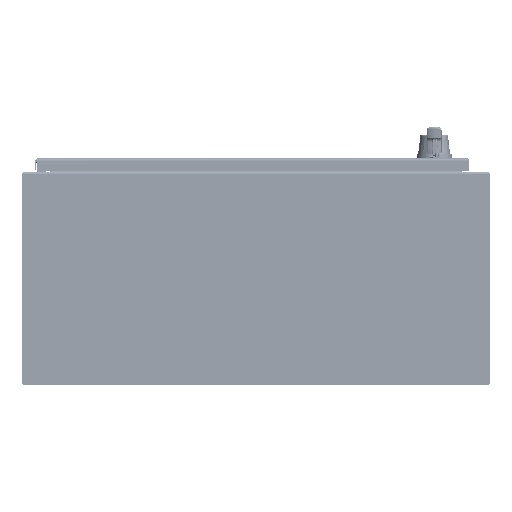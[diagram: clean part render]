
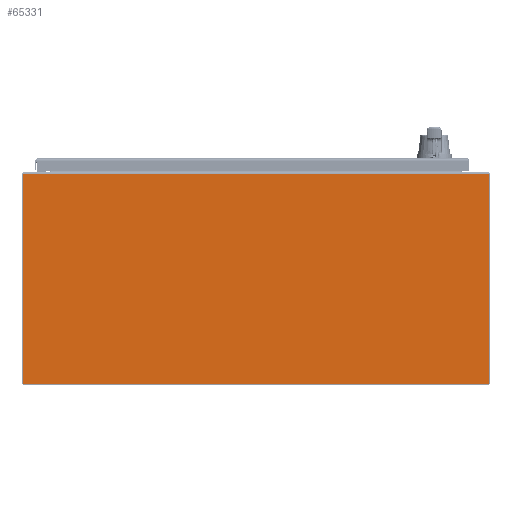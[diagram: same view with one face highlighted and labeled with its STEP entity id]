
A CAD part, front view. The second image highlights one B-rep face of the part: STEP entity #65331.
In plain terms, the highlighted planar face has unit normal (0, -1, 0).
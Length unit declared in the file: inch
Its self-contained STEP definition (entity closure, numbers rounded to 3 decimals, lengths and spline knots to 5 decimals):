
#897 = VERTEX_POINT ( 'NONE', #95481 ) ;
#1611 = ORIENTED_EDGE ( 'NONE', *, *, #28920, .F. ) ;
#2004 = DIRECTION ( 'NONE',  ( -1., 0., 0. ) ) ;
#10940 = VERTEX_POINT ( 'NONE', #115342 ) ;
#21148 = DIRECTION ( 'NONE',  ( 0., 0., -1. ) ) ;
#28920 = EDGE_CURVE ( 'NONE', #897, #10940, #127999, .T. ) ;
#43993 = CARTESIAN_POINT ( 'NONE',  ( -19.76, 0., 8.8 ) ) ;
#52885 = EDGE_LOOP ( 'NONE', ( #1611, #112942, #128052, #147893 ) ) ;
#54267 = VERTEX_POINT ( 'NONE', #43993 ) ;
#54858 = CARTESIAN_POINT ( 'NONE',  ( -19.76, 0., 9.005 ) ) ;
#63232 = LINE ( 'NONE', #54858, #102573 ) ;
#65331 = ADVANCED_FACE ( 'NONE', ( #109284 ), #175549, .T. ) ;
#65649 = EDGE_CURVE ( 'NONE', #67413, #54267, #63232, .T. ) ;
#67413 = VERTEX_POINT ( 'NONE', #102668 ) ;
#75484 = CARTESIAN_POINT ( 'NONE',  ( 19.76, 0., 9.005 ) ) ;
#75559 = VECTOR ( 'NONE', #21148, 39.37008 ) ;
#76589 = DIRECTION ( 'NONE',  ( -1., 0., 0. ) ) ;
#77582 = DIRECTION ( 'NONE',  ( 0., 0., -1. ) ) ;
#84695 = EDGE_CURVE ( 'NONE', #897, #54267, #116992, .T. ) ;
#86235 = CARTESIAN_POINT ( 'NONE',  ( -19.76, 0., -9.005 ) ) ;
#89753 = CARTESIAN_POINT ( 'NONE',  ( -19.76, 0., -9.005 ) ) ;
#90988 = DIRECTION ( 'NONE',  ( 0., -1., 0. ) ) ;
#95481 = CARTESIAN_POINT ( 'NONE',  ( 19.76, 0., 8.8 ) ) ;
#98175 = DIRECTION ( 'NONE',  ( 0., 0., 1. ) ) ;
#102573 = VECTOR ( 'NONE', #98175, 39.37008 ) ;
#102668 = CARTESIAN_POINT ( 'NONE',  ( -19.76, 0., -9.005 ) ) ;
#105261 = CARTESIAN_POINT ( 'NONE',  ( 19.76, 0., 8.8 ) ) ;
#109284 = FACE_OUTER_BOUND ( 'NONE', #52885, .T. ) ;
#112942 = ORIENTED_EDGE ( 'NONE', *, *, #84695, .T. ) ;
#115342 = CARTESIAN_POINT ( 'NONE',  ( 19.76, 0., -9.005 ) ) ;
#116759 = EDGE_CURVE ( 'NONE', #10940, #67413, #158806, .T. ) ;
#116992 = LINE ( 'NONE', #105261, #177931 ) ;
#127999 = LINE ( 'NONE', #75484, #75559 ) ;
#128052 = ORIENTED_EDGE ( 'NONE', *, *, #65649, .F. ) ;
#139289 = VECTOR ( 'NONE', #2004, 39.37008 ) ;
#147893 = ORIENTED_EDGE ( 'NONE', *, *, #116759, .F. ) ;
#156198 = AXIS2_PLACEMENT_3D ( 'NONE', #89753, #90988, #77582 ) ;
#158806 = LINE ( 'NONE', #86235, #139289 ) ;
#175549 = PLANE ( 'NONE',  #156198 ) ;
#177931 = VECTOR ( 'NONE', #76589, 39.37008 ) ;
